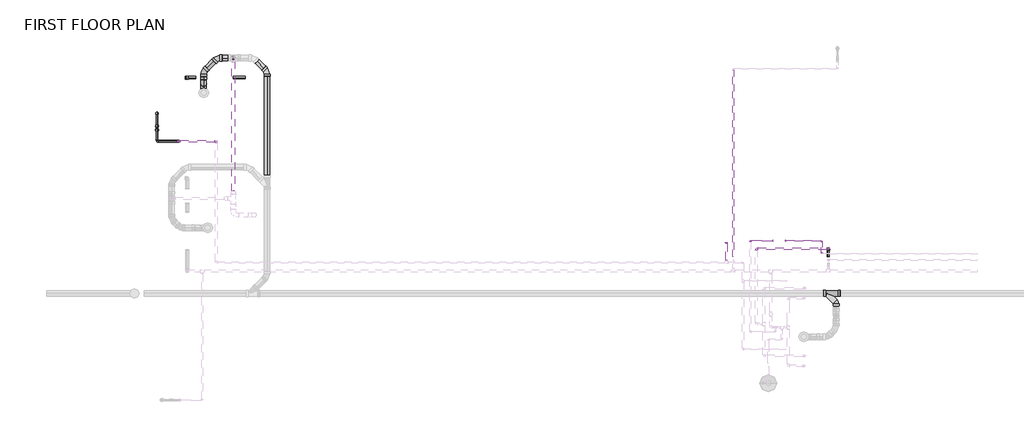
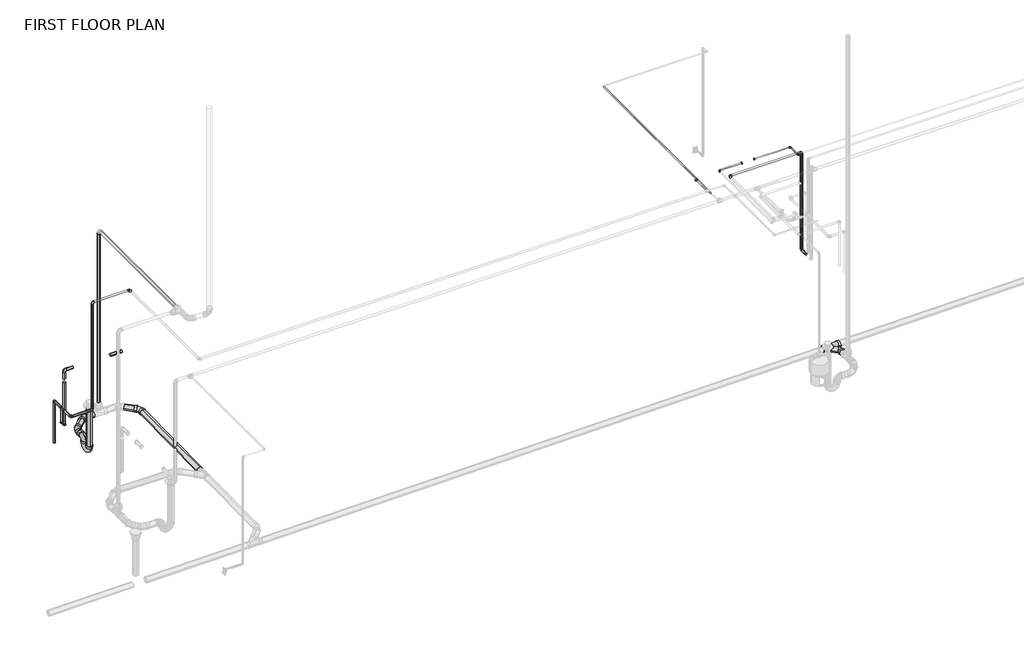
# One storey, part 5 of 9: 30 pipe segments, 25 pipe fittings.
"""IFC4 building model written with IfcOpenShell, lengths in millimetres."""

from ifc_helpers import new_model, si_unit, point, frame, frame_2d, origin, place, context, project, spatial, circle_curve, trimmed, segment, composite_curve, outline, extrude, transform, mapped, element, save
from components import bend_pvc_sch_40_dwv_standard_09977113, bend_pvc_sch_40_dwv_standard_85473d5f, bend_pvc_sch_40_dwv_standard_279b8fe5, pipe_elbow_copper_k_764eecca, pipe_elbow_copper_k_feaaf02c, pipe_elbow_copper_k_557be1fc, pipe_elbow_copper_k_e0d34d9b, pipe_elbow_copper_k_55092d7f, pipe_transition_copper_k_5e01dc24, pipe_transition_copper_k_614bbec4, pipe_transition_copper_k_b6fcaa56, pipe_transition_copper_k_0fbfc8fd, standard_b798bd9b, standard_1757d073

model = new_model("IFC4")

# Units and contexts
model_context = context("Model", 3, world=origin())
ifc_project = project(units=[si_unit("LENGTHUNIT", "METRE", prefix="MILLI")], contexts=[model_context])

# Site, building, storey
site = spatial("IfcSite", under=ifc_project)
building = spatial("IfcBuilding", under=site)
storey = spatial("IfcBuildingStorey", under=building, Name="FIRST FLOOR PLAN", Elevation=0.0)

# Pipe fittings
placement = place(None, origin())
bend_pvc_sch_40_dwv_standard_shape = bend_pvc_sch_40_dwv_standard_09977113(model_context)
element("IfcPipeFitting", 1, ObjectType="Bend - PVC - Sch 40 - DWV : Standard", at=placement, inside=storey, context=model_context, shape_type="MappedRepresentation", body=[
    mapped(bend_pvc_sch_40_dwv_standard_shape, transform((-13588.1550812, 9877.7444682, -895.4101835), x_axis=(-0.7070684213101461, -0.7070684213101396, 0.010416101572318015), y_axis=(0.7069917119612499, -0.7071451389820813, -0.010414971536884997), z_axis=(0.014729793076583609, 0.0, 0.9998915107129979))),
])
bend_pvc_sch_40_dwv_standard_2_shape = bend_pvc_sch_40_dwv_standard_85473d5f(model_context)
element("IfcPipeFitting", 2, ObjectType="Bend - PVC - Sch 40 - DWV : Standard", at=placement, inside=storey, context=model_context, shape_type="MappedRepresentation", body=[
    mapped(bend_pvc_sch_40_dwv_standard_2_shape, transform((-13303.7499249, 10162.1496246, -899.5998672), x_axis=(-0.9999132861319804, 0.0, 0.013168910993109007), y_axis=(2.055931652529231e-05, -0.999998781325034, 0.0015610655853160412), z_axis=(0.013168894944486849, 0.0015612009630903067, 0.9999120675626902))),
])
bend_pvc_sch_40_dwv_standard_3_shape = bend_pvc_sch_40_dwv_standard_279b8fe5(model_context)
element("IfcPipeFitting", 3, ObjectType="Bend - PVC - Sch 40 - DWV : Standard", at=placement, inside=storey, context=model_context, shape_type="MappedRepresentation", body=[
    mapped(bend_pvc_sch_40_dwv_standard_3_shape, transform((-12259.2496823, 9881.4645922, -913.4332048), x_axis=(0.0, 0.9999457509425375, 0.01041610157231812), y_axis=(-0.9999906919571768, -4.494158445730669e-05, 0.004314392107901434), z_axis=(0.004314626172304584, -0.010416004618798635, 0.9999364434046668))),
])
pipe_elbow_copper_k_shape = pipe_elbow_copper_k_764eecca(model_context)
element("IfcPipeFitting", 4, ObjectType="Pipe Elbow : Copper- K", at=placement, inside=storey, context=model_context, shape_type="MappedRepresentation", body=[
    mapped(pipe_elbow_copper_k_shape, transform((-13933.0661682, 9750.3354003, -345.0294199), x_axis=(0.0, 0.0, -1.0), y_axis=(-1.0, 0.0, 0.0), z_axis=(0.0, 1.0, 0.0))),
])
element("IfcPipeFitting", 5, ObjectType="Pipe Elbow : Copper- K", at=placement, inside=storey, context=model_context, shape_type="MappedRepresentation", body=[
    mapped(pipe_elbow_copper_k_shape, transform((-13933.0661682, 9750.3354003, 627.85625), x_axis=(-1.0, 0.0, 0.0), y_axis=(0.0, 0.0, -1.0), z_axis=(0.0, -1.0, 0.0))),
])
pipe_elbow_copper_k_2_shape = pipe_elbow_copper_k_feaaf02c(model_context)
element("IfcPipeFitting", 6, ObjectType="Pipe Elbow : Copper- K", at=placement, inside=storey, context=model_context, shape_type="MappedRepresentation", body=[
    mapped(pipe_elbow_copper_k_2_shape, transform((-631.4378963, 6059.1974224, 3007.2229223), x_axis=(0.0, -1.0, 0.0), y_axis=(1.0, 0.0, 0.0), z_axis=(0.0, 0.0, 1.0))),
])
element("IfcPipeFitting", 7, ObjectType="Pipe Elbow : Copper- K", at=placement, inside=storey, context=model_context, shape_type="MappedRepresentation", body=[
    mapped(pipe_elbow_copper_k_2_shape, transform((-2130.0378963, 6330.5011991, 3007.2210937), x_axis=(-1.0, 0.0, 0.0), y_axis=(0.0, -1.0, 0.0), z_axis=(0.0, 0.0, 1.0))),
])
element("IfcPipeFitting", 8, ObjectType="Pipe Elbow : Copper- K", at=placement, inside=storey, context=model_context, shape_type="MappedRepresentation", body=[
    mapped(pipe_elbow_copper_k_2_shape, transform((-631.4378963, 6330.5011991, 3007.2229223), x_axis=(0.0, 1.0, 0.0), y_axis=(-0.9999999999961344, 0.0, -2.7805177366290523e-06), z_axis=(-2.7805177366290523e-06, 0.0, 0.9999999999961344))),
])
pipe_elbow_copper_k_3_shape = pipe_elbow_copper_k_557be1fc(model_context)
element("IfcPipeFitting", 9, ObjectType="Pipe Elbow : Copper- K", at=placement, inside=storey, context=model_context, shape_type="MappedRepresentation", body=[
    mapped(pipe_elbow_copper_k_3_shape, transform((-14566.3962848, 9013.7710918, 620.167525), x_axis=(0.0, 0.0, 1.0), y_axis=(0.0, -1.0, 0.0), z_axis=(1.0, 0.0, 0.0))),
])
element("IfcPipeFitting", 10, ObjectType="Pipe Elbow : Copper- K", at=placement, inside=storey, context=model_context, shape_type="MappedRepresentation", body=[
    mapped(pipe_elbow_copper_k_3_shape, transform((-14112.0043333, 8415.2835918, 3007.8164062), x_axis=(0.0, 0.0, 1.0), y_axis=(1.0, 0.0, 0.0), z_axis=(0.0, 1.0, 0.0))),
])
element("IfcPipeFitting", 11, ObjectType="Pipe Elbow : Copper- K", at=placement, inside=storey, context=model_context, shape_type="MappedRepresentation", body=[
    mapped(pipe_elbow_copper_k_3_shape, transform((-13326.6545177, 8415.2835918, 3007.8164062), x_axis=(0.0, 1.0, 0.0), y_axis=(-1.0, 0.0, 0.0), z_axis=(0.0, 0.0, 1.0))),
])
element("IfcPipeFitting", 12, ObjectType="Pipe Elbow : Copper- K", at=placement, inside=storey, context=model_context, shape_type="MappedRepresentation", body=[
    mapped(pipe_elbow_copper_k_3_shape, transform((-14566.3962848, 8733.6556939, 620.167525), x_axis=(0.0, 0.0, 1.0), y_axis=(0.0, 1.0, 0.0), z_axis=(-1.0, 0.0, 0.0))),
])
element("IfcPipeFitting", 13, ObjectType="Pipe Elbow : Copper- K", at=placement, inside=storey, context=model_context, shape_type="MappedRepresentation", body=[
    mapped(pipe_elbow_copper_k_3_shape, transform((-14566.3962848, 8415.2835918, 620.164023), x_axis=(0.0, -1.0, 0.0), y_axis=(0.9999999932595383, 0.0, 0.0001161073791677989), z_axis=(-0.0001161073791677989, 0.0, 0.9999999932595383))),
])
element("IfcPipeFitting", 14, ObjectType="Pipe Elbow : Copper- K", at=placement, inside=storey, context=model_context, shape_type="MappedRepresentation", body=[
    mapped(pipe_elbow_copper_k_3_shape, transform((-491.4064749, 6166.1587265, 2942.828125), x_axis=(0.0, 0.0, 1.0), y_axis=(-1.0, 0.0, 0.0), z_axis=(0.0, -1.0, 0.0))),
])
element("IfcPipeFitting", 15, ObjectType="Pipe Elbow : Copper- K", at=placement, inside=storey, context=model_context, shape_type="MappedRepresentation", body=[
    mapped(pipe_elbow_copper_k_3_shape, transform((-2003.0378963, 6166.1587265, 2942.828125), x_axis=(-1.0, 0.0, 0.0), y_axis=(0.0, -1.0, 0.0), z_axis=(0.0, 0.0, 1.0))),
])
element("IfcPipeFitting", 16, ObjectType="Pipe Elbow : Copper- K", at=placement, inside=storey, context=model_context, shape_type="MappedRepresentation", body=[
    mapped(pipe_elbow_copper_k_3_shape, transform((-491.4064749, 6166.1587265, 772.1506258), x_axis=(0.0, 0.0, -1.0), y_axis=(0.0, -1.0, 0.0), z_axis=(-1.0, 0.0, 0.0))),
])
pipe_elbow_copper_k_4_shape = pipe_elbow_copper_k_e0d34d9b(model_context)
element("IfcPipeFitting", 17, ObjectType="Pipe Elbow : Copper- K", at=placement, inside=storey, context=model_context, shape_type="MappedRepresentation", body=[
    mapped(pipe_elbow_copper_k_4_shape, transform((-14112.0043333, 8415.2835918, 620.2164063), x_axis=(0.9999999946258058, 0.0, 0.00010367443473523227), y_axis=(-0.00010367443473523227, 0.0, 0.9999999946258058), z_axis=(0.0, -1.0, 0.0))),
])
pipe_elbow_copper_k_5_shape = pipe_elbow_copper_k_55092d7f(model_context)
element("IfcPipeFitting", 18, ObjectType="Pipe Elbow : Copper- K", at=placement, inside=storey, context=model_context, shape_type="MappedRepresentation", body=[
    mapped(pipe_elbow_copper_k_5_shape, transform((-14566.3962848, 8655.1814722, 620.1681133), x_axis=(0.0, 0.0, 1.0), y_axis=(0.0, -1.0, 0.0), z_axis=(1.0, 0.0, 0.0))),
])
pipe_transition_copper_k_shape = pipe_transition_copper_k_5e01dc24(model_context)
element("IfcPipeFitting", 19, ObjectType="Pipe Transition : Copper- K", at=placement, inside=storey, context=model_context, shape_type="MappedRepresentation", body=[
    mapped(pipe_transition_copper_k_shape, transform((-2631.2139631, 6281.6835918, 3007.8164062), x_axis=(0.0, 1.0, 0.0), y_axis=(-1.0, 0.0, 0.0), z_axis=(0.0, 0.0, 1.0))),
])
pipe_transition_copper_k_2_shape = pipe_transition_copper_k_614bbec4(model_context)
element("IfcPipeFitting", 20, ObjectType="Pipe Transition : Copper- K", at=placement, inside=storey, context=model_context, shape_type="MappedRepresentation", body=[
    mapped(pipe_transition_copper_k_2_shape, transform((-1660.9970973, 6330.5011991, 3007.2210937), x_axis=(1.0, 0.0, 0.0), y_axis=(0.0, 1.0, 0.0), z_axis=(0.0, 0.0, 1.0))),
])
element("IfcPipeFitting", 21, ObjectType="Pipe Transition : Copper- K", at=placement, inside=storey, context=model_context, shape_type="MappedRepresentation", body=[
    mapped(pipe_transition_copper_k_2_shape, transform((-1390.3283473, 6330.5011991, 3007.2211081), x_axis=(-0.9999999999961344, 0.0, -2.780517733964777e-06), y_axis=(0.0, -1.0000000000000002, 0.0), z_axis=(-2.780517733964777e-06, 0.0, 0.9999999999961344))),
])
pipe_transition_copper_k_3_shape = pipe_transition_copper_k_b6fcaa56(model_context)
element("IfcPipeFitting", 22, ObjectType="Pipe Transition : Copper- K", at=placement, inside=storey, context=model_context, shape_type="MappedRepresentation", body=[
    mapped(pipe_transition_copper_k_3_shape, transform((-14566.3962848, 8733.6556939, 313.134375), x_axis=(0.0, 0.0, -1.0), y_axis=(0.0, 1.0, 0.0), z_axis=(1.0, 0.0, 0.0))),
])
pipe_transition_copper_k_4_shape = pipe_transition_copper_k_0fbfc8fd(model_context)
element("IfcPipeFitting", 23, ObjectType="Pipe Transition : Copper- K", at=placement, inside=storey, context=model_context, shape_type="MappedRepresentation", body=[
    mapped(pipe_transition_copper_k_4_shape, transform((-14566.3962848, 8655.1814722, 304.8), x_axis=(0.0, 0.0, 1.0), y_axis=(-0.9999996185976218, -0.0008733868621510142, 0.0), z_axis=(0.0008733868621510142, -0.9999996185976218, 0.0))),
])
standard_shape = standard_b798bd9b(model_context)
element("IfcPipeFitting", 24, ObjectType="GES P TRAP PVC Sch 40 - DWV : Standard", at=placement, inside=storey, context=model_context, shape_type="MappedRepresentation", body=[
    mapped(standard_shape, transform((-13588.1550812, 9432.9105294, -895.4101835), x_axis=(0.0, 0.0, -1.0), y_axis=(0.0, 1.0, 0.0), z_axis=(1.0, 0.0, 0.0))),
])
standard_2_shape = standard_1757d073(model_context)
element("IfcPipeFitting", 25, ObjectType="GES Wye Combination with 8th Bend - PVC - Sch 40 - DWV : Standard", at=placement, inside=storey, context=model_context, shape_type="MappedRepresentation", body=[
    mapped(standard_2_shape, transform((-329.1339965, 5226.9278226, -834.1737284), x_axis=(0.9999457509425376, 0.0, 0.010416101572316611), y_axis=(-0.00015775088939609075, 0.9998853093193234, 0.015144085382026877), z_axis=(-0.010414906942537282, -0.015144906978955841, 0.9998310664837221))),
])

# Pipe segments
element("IfcPipeSegment", 26, ObjectType="Cast Iron - VENT", at=placement, inside=storey, context=model_context, shape_type="SweptSolid", body=[
    extrude(outline(composite_curve([segment(trimmed(circle_curve(frame_2d((0.0, 30.1625)), 30.1625), [point((-30.1625, 30.1625))], [point((0.0, 60.325))], False, "CARTESIAN"), True, "CONTINUOUS"), segment(trimmed(circle_curve(frame_2d((0.0, 30.1625)), 30.1625), [point((0.0, 60.325))], [point((30.1625, 30.1625))], False, "CARTESIAN"), True, "CONTINUOUS"), segment(trimmed(circle_curve(frame_2d((0.0, 30.1625)), 30.1625), [point((30.1625, 30.1625))], [point((0.0, 0.0))], False, "CARTESIAN"), True, "CONTINUOUS"), segment(trimmed(circle_curve(frame_2d((0.0, 30.1625)), 30.1625), [point((0.0, 0.0))], [point((-30.1625, 30.1625))], False, "CARTESIAN"), True, "CONTINUOUS")], self_intersect=False)), frame((-12967.6221436, 10131.9871246, -662.5984213), z_axis=(4.195154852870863e-06, -3.995882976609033e-06, 0.9999999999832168), x_axis=(0.9999999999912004, 1.6761703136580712e-11, -4.195154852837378e-06)), (0.0, 0.0, 1.0), 3746.1444767),
])
element("IfcPipeSegment", 27, ObjectType="Cast Iron - VENT", at=placement, inside=storey, context=model_context, shape_type="SweptSolid", body=[
    extrude(outline(composite_curve([segment(trimmed(circle_curve(frame_2d((3161.3119893, -12967.606428)), 30.1625), [point((3161.3119893, -12997.768928))], [point((3131.1494893, -12967.606428))], False, "CARTESIAN"), True, "CONTINUOUS"), segment(trimmed(circle_curve(frame_2d((3161.3119893, -12967.606428)), 30.1625), [point((3131.1494893, -12967.606428))], [point((3161.3119893, -12937.443928))], False, "CARTESIAN"), True, "CONTINUOUS"), segment(trimmed(circle_curve(frame_2d((3161.3119893, -12967.606428)), 30.1625), [point((3161.3119893, -12937.443928))], [point((3191.4744893, -12967.606428))], False, "CARTESIAN"), True, "CONTINUOUS"), segment(trimmed(circle_curve(frame_2d((3161.3119893, -12967.606428)), 30.1625), [point((3191.4744893, -12967.606428))], [point((3161.3119893, -12997.768928))], False, "CARTESIAN"), True, "CONTINUOUS")], self_intersect=False)), frame((0.0, 7380.4693777, 0.0), z_axis=(0.0, 1.0, 0.0), x_axis=(0.0, 0.0, 1.0)), (0.0, 0.0, 1.0), 2703.8650777),
])
element("IfcPipeSegment", 28, ObjectType="Copper", at=placement, inside=storey, context=model_context, shape_type="SweptSolid", body=[
    extrude(outline(composite_curve([segment(trimmed(circle_curve(frame_2d((9750.3354003, 627.85625)), 26.9875), [point((9777.3229003, 627.85625))], [point((9750.3354003, 600.86875))], False, "CARTESIAN"), True, "CONTINUOUS"), segment(trimmed(circle_curve(frame_2d((9750.3354003, 627.85625)), 26.9875), [point((9750.3354003, 600.86875))], [point((9723.3479003, 627.85625))], False, "CARTESIAN"), True, "CONTINUOUS"), segment(trimmed(circle_curve(frame_2d((9750.3354003, 627.85625)), 26.9875), [point((9723.3479003, 627.85625))], [point((9750.3354003, 654.84375))], False, "CARTESIAN"), True, "CONTINUOUS"), segment(trimmed(circle_curve(frame_2d((9750.3354003, 627.85625)), 26.9875), [point((9750.3354003, 654.84375))], [point((9777.3229003, 627.85625))], False, "CARTESIAN"), True, "CONTINUOUS")], self_intersect=False)), frame((-12967.8661682, 0.0, 0.0), z_axis=(1.0, 0.0, 0.0), x_axis=(0.0, 1.0, 0.0)), (0.0, 0.0, 1.0), 245.9795175),
])
element("IfcPipeSegment", 29, ObjectType="Copper", at=placement, inside=storey, context=model_context, shape_type="SweptSolid", body=[
    extrude(outline(composite_curve([segment(trimmed(circle_curve(frame_2d((9750.3354003, 627.85625)), 26.9875), [point((9723.3479003, 627.85625))], [point((9750.3354003, 654.84375))], False, "CARTESIAN"), True, "CONTINUOUS"), segment(trimmed(circle_curve(frame_2d((9750.3354003, 627.85625)), 26.9875), [point((9750.3354003, 654.84375))], [point((9777.3229003, 627.85625))], False, "CARTESIAN"), True, "CONTINUOUS"), segment(trimmed(circle_curve(frame_2d((9750.3354003, 627.85625)), 26.9875), [point((9777.3229003, 627.85625))], [point((9750.3354003, 600.86875))], False, "CARTESIAN"), True, "CONTINUOUS"), segment(trimmed(circle_curve(frame_2d((9750.3354003, 627.85625)), 26.9875), [point((9750.3354003, 600.86875))], [point((9723.3479003, 627.85625))], False, "CARTESIAN"), True, "CONTINUOUS")], self_intersect=False)), frame((-13896.5536682, 0.0, 0.0), z_axis=(1.0, 0.0, 0.0), x_axis=(0.0, 1.0, 0.0)), (0.0, 0.0, 1.0), 141.2875),
])
element("IfcPipeSegment", 30, ObjectType="Copper", at=placement, inside=storey, context=model_context, shape_type="SweptSolid", body=[
    extrude(outline(composite_curve([segment(trimmed(circle_curve(frame_2d((-13933.0661682, 9750.3354003)), 26.9875), [point((-13906.0786682, 9750.3354003))], [point((-13933.0661682, 9723.3479003))], False, "CARTESIAN"), True, "CONTINUOUS"), segment(trimmed(circle_curve(frame_2d((-13933.0661682, 9750.3354003)), 26.9875), [point((-13933.0661682, 9723.3479003))], [point((-13960.0536682, 9750.3354003))], False, "CARTESIAN"), True, "CONTINUOUS"), segment(trimmed(circle_curve(frame_2d((-13933.0661682, 9750.3354003)), 26.9875), [point((-13960.0536682, 9750.3354003))], [point((-13933.0661682, 9777.3229003))], False, "CARTESIAN"), True, "CONTINUOUS"), segment(trimmed(circle_curve(frame_2d((-13933.0661682, 9750.3354003)), 26.9875), [point((-13933.0661682, 9777.3229003))], [point((-13906.0786682, 9750.3354003))], False, "CARTESIAN"), True, "CONTINUOUS")], self_intersect=False)), frame((0.0, 0.0, 438.11825), z_axis=(0.0, 0.0, 1.0), x_axis=(1.0, 0.0, 0.0)), (0.0, 0.0, 1.0), 153.2255),
])
element("IfcPipeSegment", 31, ObjectType="Copper", at=placement, inside=storey, context=model_context, shape_type="SweptSolid", body=[
    extrude(outline(composite_curve([segment(trimmed(circle_curve(frame_2d((-13933.0661682, 9750.3354003)), 26.9875), [point((-13906.0786682, 9750.3354003))], [point((-13933.0661682, 9723.3479003))], False, "CARTESIAN"), True, "CONTINUOUS"), segment(trimmed(circle_curve(frame_2d((-13933.0661682, 9750.3354003)), 26.9875), [point((-13933.0661682, 9723.3479003))], [point((-13960.0536682, 9750.3354003))], False, "CARTESIAN"), True, "CONTINUOUS"), segment(trimmed(circle_curve(frame_2d((-13933.0661682, 9750.3354003)), 26.9875), [point((-13960.0536682, 9750.3354003))], [point((-13933.0661682, 9777.3229003))], False, "CARTESIAN"), True, "CONTINUOUS"), segment(trimmed(circle_curve(frame_2d((-13933.0661682, 9750.3354003)), 26.9875), [point((-13933.0661682, 9777.3229003))], [point((-13906.0786682, 9750.3354003))], False, "CARTESIAN"), True, "CONTINUOUS")], self_intersect=False)), frame((0.0, 0.0, -308.5169199), z_axis=(0.0, 0.0, 1.0), x_axis=(1.0, 0.0, 0.0)), (0.0, 0.0, 1.0), 668.9111699),
])
element("IfcPipeSegment", 32, ObjectType="Copper", at=placement, inside=storey, context=model_context, shape_type="SweptSolid", body=[
    extrude(outline(composite_curve([segment(trimmed(circle_curve(frame_2d((3007.2229223, -631.4378963)), 11.1125), [point((3007.2229223, -620.3253963))], [point((3018.3354223, -631.4378963))], False, "CARTESIAN"), True, "CONTINUOUS"), segment(trimmed(circle_curve(frame_2d((3007.2229223, -631.4378963)), 11.1125), [point((3018.3354223, -631.4378963))], [point((3007.2229223, -642.5503963))], False, "CARTESIAN"), True, "CONTINUOUS"), segment(trimmed(circle_curve(frame_2d((3007.2229223, -631.4378963)), 11.1125), [point((3007.2229223, -642.5503963))], [point((2996.1104223, -631.4378963))], False, "CARTESIAN"), True, "CONTINUOUS"), segment(trimmed(circle_curve(frame_2d((3007.2229223, -631.4378963)), 11.1125), [point((2996.1104223, -631.4378963))], [point((3007.2229223, -620.3253963))], False, "CARTESIAN"), True, "CONTINUOUS")], self_intersect=False)), frame((0.0, 6079.8349224, 0.0), z_axis=(0.0, 1.0, 0.0), x_axis=(0.0, 0.0, 1.0)), (0.0, 0.0, 1.0), 230.0287766),
])
element("IfcPipeSegment", 33, ObjectType="Copper", at=placement, inside=storey, context=model_context, shape_type="SweptSolid", body=[
    extrude(outline(composite_curve([segment(trimmed(circle_curve(frame_2d((6330.5011991, 3007.2210937)), 11.1125), [point((6341.6136991, 3007.2210937))], [point((6330.5011991, 2996.1085937))], False, "CARTESIAN"), True, "CONTINUOUS"), segment(trimmed(circle_curve(frame_2d((6330.5011991, 3007.2210937)), 11.1125), [point((6330.5011991, 2996.1085937))], [point((6319.3886991, 3007.2210937))], False, "CARTESIAN"), True, "CONTINUOUS"), segment(trimmed(circle_curve(frame_2d((6330.5011991, 3007.2210937)), 11.1125), [point((6319.3886991, 3007.2210937))], [point((6330.5011991, 3018.3335937))], False, "CARTESIAN"), True, "CONTINUOUS"), segment(trimmed(circle_curve(frame_2d((6330.5011991, 3007.2210937)), 11.1125), [point((6330.5011991, 3018.3335937))], [point((6341.6136991, 3007.2210937))], False, "CARTESIAN"), True, "CONTINUOUS")], self_intersect=False)), frame((-2109.4003963, 0.0, 0.0), z_axis=(1.0, 0.0, 0.0), x_axis=(0.0, 1.0, 0.0)), (0.0, 0.0, 1.0), 448.403299),
])
element("IfcPipeSegment", 34, ObjectType="Copper", at=placement, inside=storey, context=model_context, shape_type="SweptSolid", body=[
    extrude(outline(composite_curve([segment(trimmed(circle_curve(frame_2d((6330.5011991, 3007.2228649)), 11.1125), [point((6341.6136991, 3007.2228649))], [point((6330.5011991, 2996.1103649))], False, "CARTESIAN"), True, "CONTINUOUS"), segment(trimmed(circle_curve(frame_2d((6330.5011991, 3007.2228649)), 11.1125), [point((6330.5011991, 2996.1103649))], [point((6319.3886991, 3007.2228649))], False, "CARTESIAN"), True, "CONTINUOUS"), segment(trimmed(circle_curve(frame_2d((6330.5011991, 3007.2228649)), 11.1125), [point((6319.3886991, 3007.2228649))], [point((6330.5011991, 3018.3353649))], False, "CARTESIAN"), True, "CONTINUOUS"), segment(trimmed(circle_curve(frame_2d((6330.5011991, 3007.2228649)), 11.1125), [point((6330.5011991, 3018.3353649))], [point((6341.6136991, 3007.2228649))], False, "CARTESIAN"), True, "CONTINUOUS")], self_intersect=False)), frame((-1390.3283473, 0.0, 0.0), z_axis=(1.0, 0.0, 0.0), x_axis=(0.0, 1.0, 0.0)), (0.0, 0.0, 1.0), 738.252951),
])
element("IfcPipeSegment", 35, ObjectType="Copper", at=placement, inside=storey, context=model_context, shape_type="SweptSolid", body=[
    extrude(outline(composite_curve([segment(trimmed(circle_curve(frame_2d((6166.1587265, 2942.828125)), 20.6375), [point((6186.7962265, 2942.828125))], [point((6166.1587265, 2922.190625))], False, "CARTESIAN"), True, "CONTINUOUS"), segment(trimmed(circle_curve(frame_2d((6166.1587265, 2942.828125)), 20.6375), [point((6166.1587265, 2922.190625))], [point((6145.5212265, 2942.828125))], False, "CARTESIAN"), True, "CONTINUOUS"), segment(trimmed(circle_curve(frame_2d((6166.1587265, 2942.828125)), 20.6375), [point((6145.5212265, 2942.828125))], [point((6166.1587265, 2963.465625))], False, "CARTESIAN"), True, "CONTINUOUS"), segment(trimmed(circle_curve(frame_2d((6166.1587265, 2942.828125)), 20.6375), [point((6166.1587265, 2963.465625))], [point((6186.7962265, 2942.828125))], False, "CARTESIAN"), True, "CONTINUOUS")], self_intersect=False)), frame((-1972.8753963, 0.0, 0.0), z_axis=(1.0, 0.0, 0.0), x_axis=(0.0, 1.0, 0.0)), (0.0, 0.0, 1.0), 1451.3064214),
])
element("IfcPipeSegment", 36, ObjectType="Copper", at=placement, inside=storey, context=model_context, shape_type="SweptSolid", body=[
    extrude(outline(composite_curve([segment(trimmed(circle_curve(frame_2d((-14566.3962848, 9013.7710918)), 20.6375), [point((-14587.0337848, 9013.7710918))], [point((-14566.3962848, 9034.4085918))], False, "CARTESIAN"), True, "CONTINUOUS"), segment(trimmed(circle_curve(frame_2d((-14566.3962848, 9013.7710918)), 20.6375), [point((-14566.3962848, 9034.4085918))], [point((-14545.7587848, 9013.7710918))], False, "CARTESIAN"), True, "CONTINUOUS"), segment(trimmed(circle_curve(frame_2d((-14566.3962848, 9013.7710918)), 20.6375), [point((-14545.7587848, 9013.7710918))], [point((-14566.3962848, 8993.1335918))], False, "CARTESIAN"), True, "CONTINUOUS"), segment(trimmed(circle_curve(frame_2d((-14566.3962848, 9013.7710918)), 20.6375), [point((-14566.3962848, 8993.1335918))], [point((-14587.0337848, 9013.7710918))], False, "CARTESIAN"), True, "CONTINUOUS")], self_intersect=False)), frame((0.0, 0.0, -314.8669199), z_axis=(0.0, 0.0, 1.0), x_axis=(1.0, 0.0, 0.0)), (0.0, 0.0, 1.0), 904.8719449),
])
element("IfcPipeSegment", 37, ObjectType="Copper", at=placement, inside=storey, context=model_context, shape_type="SweptSolid", body=[
    extrude(outline(composite_curve([segment(trimmed(circle_curve(frame_2d((0.0, 20.6375)), 20.6375), [point((0.0, 41.275))], [point((20.6375, 20.6375))], False, "CARTESIAN"), True, "CONTINUOUS"), segment(trimmed(circle_curve(frame_2d((0.0, 20.6375)), 20.6375), [point((20.6375, 20.6375))], [point((0.0, 0.0))], False, "CARTESIAN"), True, "CONTINUOUS"), segment(trimmed(circle_curve(frame_2d((0.0, 20.6375)), 20.6375), [point((0.0, 0.0))], [point((-20.6375, 20.6375))], False, "CARTESIAN"), True, "CONTINUOUS"), segment(trimmed(circle_curve(frame_2d((0.0, 20.6375)), 20.6375), [point((-20.6375, 20.6375))], [point((0.0, 41.275))], False, "CARTESIAN"), True, "CONTINUOUS")], self_intersect=False)), frame((-14587.0337848, 8445.4460918, 620.164023), z_axis=(0.0, 0.9999999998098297, 1.9502326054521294e-05), x_axis=(0.0, -1.9502326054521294e-05, 0.9999999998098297)), (0.0, 0.0, 1.0), 179.5722922),
])
element("IfcPipeSegment", 38, ObjectType="Copper", at=placement, inside=storey, context=model_context, shape_type="SweptSolid", body=[
    extrude(outline(composite_curve([segment(trimmed(circle_curve(frame_2d((0.0, 20.6374999)), 20.6375), [point((-20.6375, 20.6374999))], [point((0.0, 41.275))], False, "CARTESIAN"), True, "CONTINUOUS"), segment(trimmed(circle_curve(frame_2d((0.0, 20.6374999)), 20.6375), [point((0.0, 41.275))], [point((20.6375, 20.6374999))], False, "CARTESIAN"), True, "CONTINUOUS"), segment(trimmed(circle_curve(frame_2d((0.0, 20.6374999)), 20.6375), [point((20.6375, 20.6374999))], [point((0.0, 0.0))], False, "CARTESIAN"), True, "CONTINUOUS"), segment(trimmed(circle_curve(frame_2d((0.0, 20.6374999)), 20.6375), [point((0.0, 0.0))], [point((-20.6375, 20.6374999))], False, "CARTESIAN"), True, "CONTINUOUS")], self_intersect=False)), frame((-14536.2313889, 8415.2835918, 599.5300252), z_axis=(0.9999999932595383, 0.0, 0.00011610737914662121), x_axis=(0.0, 1.0, 0.0)), (0.0, 0.0, 1.0), 394.0700815),
])
element("IfcPipeSegment", 39, ObjectType="Copper", at=placement, inside=storey, context=model_context, shape_type="SweptSolid", body=[
    extrude(outline(composite_curve([segment(trimmed(circle_curve(frame_2d((-14112.0043333, 8415.2835918)), 20.6375), [point((-14132.6418333, 8415.2835918))], [point((-14112.0043333, 8435.9210918))], False, "CARTESIAN"), True, "CONTINUOUS"), segment(trimmed(circle_curve(frame_2d((-14112.0043333, 8415.2835918)), 20.6375), [point((-14112.0043333, 8435.9210918))], [point((-14091.3668333, 8415.2835918))], False, "CARTESIAN"), True, "CONTINUOUS"), segment(trimmed(circle_curve(frame_2d((-14112.0043333, 8415.2835918)), 20.6375), [point((-14091.3668333, 8415.2835918))], [point((-14112.0043333, 8394.6460918))], False, "CARTESIAN"), True, "CONTINUOUS"), segment(trimmed(circle_curve(frame_2d((-14112.0043333, 8415.2835918)), 20.6375), [point((-14112.0043333, 8394.6460918))], [point((-14132.6418333, 8415.2835918))], False, "CARTESIAN"), True, "CONTINUOUS")], self_intersect=False)), frame((0.0, 0.0, 650.3757793), z_axis=(0.0, 0.0, 1.0), x_axis=(1.0, 0.0, 0.0)), (0.0, 0.0, 1.0), 2327.2781269),
])
element("IfcPipeSegment", 40, ObjectType="Copper", at=placement, inside=storey, context=model_context, shape_type="SweptSolid", body=[
    extrude(outline(composite_curve([segment(trimmed(circle_curve(frame_2d((8415.2835918, 3007.8164063)), 20.6375), [point((8394.6460918, 3007.8164063))], [point((8415.2835918, 3028.4539063))], False, "CARTESIAN"), True, "CONTINUOUS"), segment(trimmed(circle_curve(frame_2d((8415.2835918, 3007.8164063)), 20.6375), [point((8415.2835918, 3028.4539063))], [point((8435.9210918, 3007.8164063))], False, "CARTESIAN"), True, "CONTINUOUS"), segment(trimmed(circle_curve(frame_2d((8415.2835918, 3007.8164063)), 20.6375), [point((8435.9210918, 3007.8164063))], [point((8415.2835918, 2987.1789063))], False, "CARTESIAN"), True, "CONTINUOUS"), segment(trimmed(circle_curve(frame_2d((8415.2835918, 3007.8164063)), 20.6375), [point((8415.2835918, 2987.1789063))], [point((8394.6460918, 3007.8164063))], False, "CARTESIAN"), True, "CONTINUOUS")], self_intersect=False)), frame((-14081.8418333, 0.0, 0.0), z_axis=(1.0, 0.0, 0.0), x_axis=(0.0, 1.0, 0.0)), (0.0, 0.0, 1.0), 725.0248156),
])
element("IfcPipeSegment", 41, ObjectType="Copper", at=placement, inside=storey, context=model_context, shape_type="SweptSolid", body=[
    extrude(outline(composite_curve([segment(trimmed(circle_curve(frame_2d((620.167525, -14566.3962848)), 20.6375), [point((620.167525, -14587.0337848))], [point((599.530025, -14566.3962848))], False, "CARTESIAN"), True, "CONTINUOUS"), segment(trimmed(circle_curve(frame_2d((620.167525, -14566.3962848)), 20.6375), [point((599.530025, -14566.3962848))], [point((620.167525, -14545.7587848))], False, "CARTESIAN"), True, "CONTINUOUS"), segment(trimmed(circle_curve(frame_2d((620.167525, -14566.3962848)), 20.6375), [point((620.167525, -14545.7587848))], [point((640.805025, -14566.3962848))], False, "CARTESIAN"), True, "CONTINUOUS"), segment(trimmed(circle_curve(frame_2d((620.167525, -14566.3962848)), 20.6375), [point((640.805025, -14566.3962848))], [point((620.167525, -14587.0337848))], False, "CARTESIAN"), True, "CONTINUOUS")], self_intersect=False)), frame((0.0, 8763.8181939, 0.0), z_axis=(0.0, 1.0, 0.0), x_axis=(0.0, 0.0, 1.0)), (0.0, 0.0, 1.0), 219.7903979),
])
element("IfcPipeSegment", 42, ObjectType="Copper", at=placement, inside=storey, context=model_context, shape_type="SweptSolid", body=[
    extrude(outline(composite_curve([segment(trimmed(circle_curve(frame_2d((-14566.3962848, 8733.6556939)), 20.6375), [point((-14545.7587848, 8733.6556939))], [point((-14566.3962848, 8713.0181939))], False, "CARTESIAN"), True, "CONTINUOUS"), segment(trimmed(circle_curve(frame_2d((-14566.3962848, 8733.6556939)), 20.6375), [point((-14566.3962848, 8713.0181939))], [point((-14587.0337848, 8733.6556939))], False, "CARTESIAN"), True, "CONTINUOUS"), segment(trimmed(circle_curve(frame_2d((-14566.3962848, 8733.6556939)), 20.6375), [point((-14587.0337848, 8733.6556939))], [point((-14566.3962848, 8754.2931939))], False, "CARTESIAN"), True, "CONTINUOUS"), segment(trimmed(circle_curve(frame_2d((-14566.3962848, 8733.6556939)), 20.6375), [point((-14566.3962848, 8754.2931939))], [point((-14545.7587848, 8733.6556939))], False, "CARTESIAN"), True, "CONTINUOUS")], self_intersect=False)), frame((0.0, 0.0, 313.134375), z_axis=(0.0, 0.0, 1.0), x_axis=(1.0, 0.0, 0.0)), (0.0, 0.0, 1.0), 276.87065),
])
element("IfcPipeSegment", 43, ObjectType="Copper", at=placement, inside=storey, context=model_context, shape_type="SweptSolid", body=[
    extrude(outline(composite_curve([segment(trimmed(circle_curve(frame_2d((620.167525, -14566.3962848)), 20.6375), [point((620.167525, -14545.7587848))], [point((640.805025, -14566.3962848))], False, "CARTESIAN"), True, "CONTINUOUS"), segment(trimmed(circle_curve(frame_2d((620.167525, -14566.3962848)), 20.6375), [point((640.805025, -14566.3962848))], [point((620.167525, -14587.0337848))], False, "CARTESIAN"), True, "CONTINUOUS"), segment(trimmed(circle_curve(frame_2d((620.167525, -14566.3962848)), 20.6375), [point((620.167525, -14587.0337848))], [point((599.530025, -14566.3962848))], False, "CARTESIAN"), True, "CONTINUOUS"), segment(trimmed(circle_curve(frame_2d((620.167525, -14566.3962848)), 20.6375), [point((599.530025, -14566.3962848))], [point((620.167525, -14545.7587848))], False, "CARTESIAN"), True, "CONTINUOUS")], self_intersect=False)), frame((0.0, 8763.8181939, 0.0), z_axis=(0.0, 1.0, 0.0), x_axis=(0.0, 0.0, 1.0)), (0.0, 0.0, 1.0), 109.5375),
])
element("IfcPipeSegment", 44, ObjectType="Copper", at=placement, inside=storey, context=model_context, shape_type="SweptSolid", body=[
    extrude(outline(composite_curve([segment(trimmed(circle_curve(frame_2d((-14566.3962848, 8655.1814722)), 20.6375), [point((-14587.0337848, 8655.1814722))], [point((-14566.3962848, 8675.8189722))], False, "CARTESIAN"), True, "CONTINUOUS"), segment(trimmed(circle_curve(frame_2d((-14566.3962848, 8655.1814722)), 20.6375), [point((-14566.3962848, 8675.8189722))], [point((-14545.7587848, 8655.1814722))], False, "CARTESIAN"), True, "CONTINUOUS"), segment(trimmed(circle_curve(frame_2d((-14566.3962848, 8655.1814722)), 20.6375), [point((-14545.7587848, 8655.1814722))], [point((-14566.3962848, 8634.5439722))], False, "CARTESIAN"), True, "CONTINUOUS"), segment(trimmed(circle_curve(frame_2d((-14566.3962848, 8655.1814722)), 20.6375), [point((-14566.3962848, 8634.5439722))], [point((-14587.0337848, 8655.1814722))], False, "CARTESIAN"), True, "CONTINUOUS")], self_intersect=False)), frame((0.0, 0.0, 321.46875), z_axis=(0.0, 0.0, 1.0), x_axis=(1.0, 0.0, 0.0)), (0.0, 0.0, 1.0), 268.536275),
])
element("IfcPipeSegment", 45, ObjectType="Copper", at=placement, inside=storey, context=model_context, shape_type="SweptSolid", body=[
    extrude(outline(composite_curve([segment(trimmed(circle_curve(frame_2d((772.1506258, -491.4064749)), 20.6375), [point((772.1506258, -512.0439749))], [point((751.5131258, -491.4064749))], False, "CARTESIAN"), True, "CONTINUOUS"), segment(trimmed(circle_curve(frame_2d((772.1506258, -491.4064749)), 20.6375), [point((751.5131258, -491.4064749))], [point((772.1506258, -470.7689749))], False, "CARTESIAN"), True, "CONTINUOUS"), segment(trimmed(circle_curve(frame_2d((772.1506258, -491.4064749)), 20.6375), [point((772.1506258, -470.7689749))], [point((792.7881258, -491.4064749))], False, "CARTESIAN"), True, "CONTINUOUS"), segment(trimmed(circle_curve(frame_2d((772.1506258, -491.4064749)), 20.6375), [point((792.7881258, -491.4064749))], [point((772.1506258, -512.0439749))], False, "CARTESIAN"), True, "CONTINUOUS")], self_intersect=False)), frame((0.0, 5999.7652172, 0.0), z_axis=(0.0, 1.0, 0.0), x_axis=(0.0, 0.0, 1.0)), (0.0, 0.0, 1.0), 136.2310093),
])
element("IfcPipeSegment", 46, ObjectType="Copper", at=placement, inside=storey, context=model_context, shape_type="SweptSolid", body=[
    extrude(outline(composite_curve([segment(trimmed(circle_curve(frame_2d((-491.4064749, 6166.1587265)), 20.6375), [point((-512.0439749, 6166.1587265))], [point((-491.4064749, 6186.7962265))], False, "CARTESIAN"), True, "CONTINUOUS"), segment(trimmed(circle_curve(frame_2d((-491.4064749, 6166.1587265)), 20.6375), [point((-491.4064749, 6186.7962265))], [point((-470.7689749, 6166.1587265))], False, "CARTESIAN"), True, "CONTINUOUS"), segment(trimmed(circle_curve(frame_2d((-491.4064749, 6166.1587265)), 20.6375), [point((-470.7689749, 6166.1587265))], [point((-491.4064749, 6145.5212265))], False, "CARTESIAN"), True, "CONTINUOUS"), segment(trimmed(circle_curve(frame_2d((-491.4064749, 6166.1587265)), 20.6375), [point((-491.4064749, 6145.5212265))], [point((-512.0439749, 6166.1587265))], False, "CARTESIAN"), True, "CONTINUOUS")], self_intersect=False)), frame((0.0, 0.0, 802.3131258), z_axis=(0.0, 0.0, 1.0), x_axis=(1.0, 0.0, 0.0)), (0.0, 0.0, 1.0), 2110.3524992),
])
element("IfcPipeSegment", 47, ObjectType="Copper", at=placement, inside=storey, context=model_context, shape_type="SweptSolid", body=[
    extrude(outline(composite_curve([segment(trimmed(circle_curve(frame_2d((2823.36875, -2485.6378963)), 11.1125), [point((2823.36875, -2474.5253963))], [point((2834.48125, -2485.6378963))], False, "CARTESIAN"), True, "CONTINUOUS"), segment(trimmed(circle_curve(frame_2d((2823.36875, -2485.6378963)), 11.1125), [point((2834.48125, -2485.6378963))], [point((2823.36875, -2496.7503963))], False, "CARTESIAN"), True, "CONTINUOUS"), segment(trimmed(circle_curve(frame_2d((2823.36875, -2485.6378963)), 11.1125), [point((2823.36875, -2496.7503963))], [point((2812.25625, -2485.6378963))], False, "CARTESIAN"), True, "CONTINUOUS"), segment(trimmed(circle_curve(frame_2d((2823.36875, -2485.6378963)), 11.1125), [point((2812.25625, -2485.6378963))], [point((2823.36875, -2474.5253963))], False, "CARTESIAN"), True, "CONTINUOUS")], self_intersect=False)), frame((0.0, 5996.4663661, 0.0), z_axis=(0.0, 1.0, 0.0), x_axis=(0.0, 0.0, 1.0)), (0.0, 0.0, 1.0), 3920.6316633),
])
element("IfcPipeSegment", 48, ObjectType="Copper", at=placement, inside=storey, context=model_context, shape_type="SweptSolid", body=[
    extrude(outline(composite_curve([segment(trimmed(circle_curve(frame_2d((3007.8164062, -2631.2139631)), 14.2875), [point((3007.8164062, -2616.9264631))], [point((3022.1039062, -2631.2139631))], False, "CARTESIAN"), True, "CONTINUOUS"), segment(trimmed(circle_curve(frame_2d((3007.8164062, -2631.2139631)), 14.2875), [point((3022.1039062, -2631.2139631))], [point((3007.8164062, -2645.5014631))], False, "CARTESIAN"), True, "CONTINUOUS"), segment(trimmed(circle_curve(frame_2d((3007.8164062, -2631.2139631)), 14.2875), [point((3007.8164062, -2645.5014631))], [point((2993.5289062, -2631.2139631))], False, "CARTESIAN"), True, "CONTINUOUS"), segment(trimmed(circle_curve(frame_2d((3007.8164062, -2631.2139631)), 14.2875), [point((2993.5289062, -2631.2139631))], [point((3007.8164062, -2616.9264631))], False, "CARTESIAN"), True, "CONTINUOUS")], self_intersect=False)), frame((0.0, 5922.1148418, 0.0), z_axis=(0.0, 1.0, 0.0), x_axis=(0.0, 0.0, 1.0)), (0.0, 0.0, 1.0), 359.56875),
])
element("IfcPipeSegment", 49, ObjectType="Copper", at=placement, inside=storey, context=model_context, shape_type="SweptSolid", body=[
    extrude(outline(composite_curve([segment(trimmed(circle_curve(frame_2d((3007.8164062, -2631.2139631)), 26.9875), [point((3007.8164062, -2604.2264631))], [point((3034.8039062, -2631.2139631))], False, "CARTESIAN"), True, "CONTINUOUS"), segment(trimmed(circle_curve(frame_2d((3007.8164062, -2631.2139631)), 26.9875), [point((3034.8039062, -2631.2139631))], [point((3007.8164062, -2658.2014631))], False, "CARTESIAN"), True, "CONTINUOUS"), segment(trimmed(circle_curve(frame_2d((3007.8164062, -2631.2139631)), 26.9875), [point((3007.8164062, -2658.2014631))], [point((2980.8289062, -2631.2139631))], False, "CARTESIAN"), True, "CONTINUOUS"), segment(trimmed(circle_curve(frame_2d((3007.8164062, -2631.2139631)), 26.9875), [point((2980.8289062, -2631.2139631))], [point((3007.8164062, -2604.2264631))], False, "CARTESIAN"), True, "CONTINUOUS")], self_intersect=False)), frame((0.0, 6288.4304668, 0.0), z_axis=(0.0, 1.0, 0.0), x_axis=(0.0, 0.0, 1.0)), (0.0, 0.0, 1.0), 12.7),
])
element("IfcPipeSegment", 50, ObjectType="PVC - SAN/STORM", at=placement, inside=storey, context=model_context, shape_type="SweptSolid", body=[
    extrude(outline(composite_curve([segment(trimmed(circle_curve(frame_2d((0.0, 57.15)), 57.15), [point((57.15, 57.15))], [point((0.0, 0.0))], False, "CARTESIAN"), True, "CONTINUOUS"), segment(trimmed(circle_curve(frame_2d((0.0, 57.15)), 57.15), [point((0.0, 0.0))], [point((-57.15, 57.15))], False, "CARTESIAN"), True, "CONTINUOUS"), segment(trimmed(circle_curve(frame_2d((0.0, 57.15)), 57.15), [point((-57.15, 57.15))], [point((0.0, 114.3000001))], False, "CARTESIAN"), True, "CONTINUOUS"), segment(trimmed(circle_curve(frame_2d((0.0, 57.15)), 57.15), [point((0.0, 114.3000001))], [point((57.15, 57.15))], False, "CARTESIAN"), True, "CONTINUOUS")], self_intersect=False)), frame((-12259.2496823, 7699.8843352, -879.0048986), z_axis=(0.0, 0.9999457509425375, 0.010416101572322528), x_axis=(1.0, 0.0, 0.0)), (0.0, 0.0, 1.0), 2081.0780996),
])
element("IfcPipeSegment", 51, ObjectType="PVC - SAN/STORM", at=placement, inside=storey, context=model_context, shape_type="SweptSolid", body=[
    extrude(outline(composite_curve([segment(trimmed(circle_curve(frame_2d((0.0, 57.15)), 57.15), [point((57.1468997, 57.7452822))], [point((0.5952822, 0.0031003))], False, "CARTESIAN"), True, "CONTINUOUS"), segment(trimmed(circle_curve(frame_2d((0.0, 57.15)), 57.15), [point((0.5952822, 0.0031003))], [point((-57.1468996, 56.5547178))], False, "CARTESIAN"), True, "CONTINUOUS"), segment(trimmed(circle_curve(frame_2d((0.0, 57.15)), 57.15), [point((-57.1468996, 56.5547178))], [point((-0.5952822, 114.2968996))], False, "CARTESIAN"), True, "CONTINUOUS"), segment(trimmed(circle_curve(frame_2d((0.0, 57.15)), 57.15), [point((-0.5952822, 114.2968996))], [point((57.1468997, 57.7452822))], False, "CARTESIAN"), True, "CONTINUOUS")], self_intersect=False)), frame((-12329.9763802, 9951.3453828, -855.2475327), z_axis=(-0.7070887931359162, 0.7070480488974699, 0.010416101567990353), x_axis=(0.7071247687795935, 0.7070120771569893, 0.010415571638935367)), (0.0, 0.0, 1.0), 196.9311528),
])
element("IfcPipeSegment", 52, ObjectType="PVC - SAN/STORM", at=placement, inside=storey, context=model_context, shape_type="SweptSolid", body=[
    extrude(outline(composite_curve([segment(trimmed(circle_curve(frame_2d((0.0, -57.15)), 57.15), [point((-57.15, -57.15))], [point((0.0, 0.0))], False, "CARTESIAN"), True, "CONTINUOUS"), segment(trimmed(circle_curve(frame_2d((0.0, -57.15)), 57.15), [point((0.0, 0.0))], [point((57.15, -57.15))], False, "CARTESIAN"), True, "CONTINUOUS"), segment(trimmed(circle_curve(frame_2d((0.0, -57.15)), 57.15), [point((57.15, -57.15))], [point((0.0, -114.3))], False, "CARTESIAN"), True, "CONTINUOUS"), segment(trimmed(circle_curve(frame_2d((0.0, -57.15)), 57.15), [point((0.0, -114.3))], [point((-57.15, -57.15))], False, "CARTESIAN"), True, "CONTINUOUS")], self_intersect=False)), frame((-13588.1550812, 9375.7605294, -966.8476835), z_axis=(1.9999062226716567e-05, 0.0, 0.9999999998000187), x_axis=(-0.9999999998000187, 0.0, 1.9999062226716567e-05)), (0.0, 0.0, 1.0), 792.2226837),
])
element("IfcPipeSegment", 53, ObjectType="PVC - SAN/STORM", at=placement, inside=storey, context=model_context, shape_type="SweptSolid", body=[
    extrude(outline(composite_curve([segment(trimmed(circle_curve(frame_2d((-895.4101835, -13588.1550812)), 57.15), [point((-895.4101835, -13531.0050812))], [point((-838.2601835, -13588.1550812))], False, "CARTESIAN"), True, "CONTINUOUS"), segment(trimmed(circle_curve(frame_2d((-895.4101835, -13588.1550812)), 57.15), [point((-838.2601835, -13588.1550812))], [point((-895.4101835, -13645.3050812))], False, "CARTESIAN"), True, "CONTINUOUS"), segment(trimmed(circle_curve(frame_2d((-895.4101835, -13588.1550812)), 57.15), [point((-895.4101835, -13645.3050812))], [point((-952.5601835, -13588.1550812))], False, "CARTESIAN"), True, "CONTINUOUS"), segment(trimmed(circle_curve(frame_2d((-895.4101835, -13588.1550812)), 57.15), [point((-952.5601835, -13588.1550812))], [point((-895.4101835, -13531.0050812))], False, "CARTESIAN"), True, "CONTINUOUS")], self_intersect=False)), frame((0.0, 9758.3480294, 0.0), z_axis=(0.0, 1.0, 0.0), x_axis=(0.0, 0.0, 1.0)), (0.0, 0.0, 1.0), 22.5462388),
])
element("IfcPipeSegment", 54, ObjectType="PVC - SAN/STORM", at=placement, inside=storey, context=model_context, shape_type="SweptSolid", body=[
    extrude(outline(composite_curve([segment(trimmed(circle_curve(frame_2d((0.0, -57.15)), 57.15), [point((57.1469, -57.7452479))], [point((-0.5952479, -114.2969))], False, "CARTESIAN"), True, "CONTINUOUS"), segment(trimmed(circle_curve(frame_2d((0.0, -57.15)), 57.15), [point((-0.5952479, -114.2969))], [point((-57.1469001, -56.554752))], False, "CARTESIAN"), True, "CONTINUOUS"), segment(trimmed(circle_curve(frame_2d((0.0, -57.15)), 57.15), [point((-57.1469001, -56.554752))], [point((0.5952479, -0.0030999))], False, "CARTESIAN"), True, "CONTINUOUS"), segment(trimmed(circle_curve(frame_2d((0.0, -57.15)), 57.15), [point((0.5952479, -0.0030999))], [point((57.1469, -57.7452479))], False, "CARTESIAN"), True, "CONTINUOUS")], self_intersect=False)), frame((-13374.4745851, 10092.266772, -841.4141947), z_axis=(-0.7070684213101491, -0.7070684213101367, 0.010416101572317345), x_axis=(0.7071451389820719, -0.7069917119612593, 0.010414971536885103)), (0.0, 0.0, 1.0), 205.35605),
])
element("IfcPipeSegment", 55, ObjectType="PVC - SAN/STORM", at=placement, inside=storey, context=model_context, shape_type="SweptSolid", body=[
    extrude(outline(composite_curve([segment(trimmed(circle_curve(frame_2d((0.0, 57.15)), 57.15), [point((0.0, 114.3))], [point((57.15, 57.15))], False, "CARTESIAN"), True, "CONTINUOUS"), segment(trimmed(circle_curve(frame_2d((0.0, 57.15)), 57.15), [point((57.15, 57.15))], [point((0.0, 0.0))], False, "CARTESIAN"), True, "CONTINUOUS"), segment(trimmed(circle_curve(frame_2d((0.0, 57.15)), 57.15), [point((0.0, 0.0))], [point((-57.15, 57.15))], False, "CARTESIAN"), True, "CONTINUOUS"), segment(trimmed(circle_curve(frame_2d((0.0, 57.15)), 57.15), [point((-57.15, 57.15))], [point((0.0, 114.3))], False, "CARTESIAN"), True, "CONTINUOUS")], self_intersect=False)), frame((-13077.0549837, 10104.9996246, -902.5165693), z_axis=(-0.9999202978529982, 0.0, 0.012625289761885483), x_axis=(0.012625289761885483, 0.0, 0.9999202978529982)), (0.0, 0.0, 1.0), 126.6885121),
])

save(model, "model.ifc")
